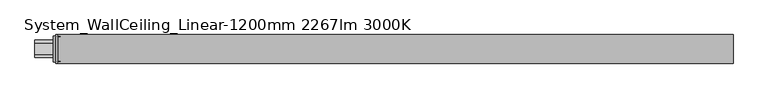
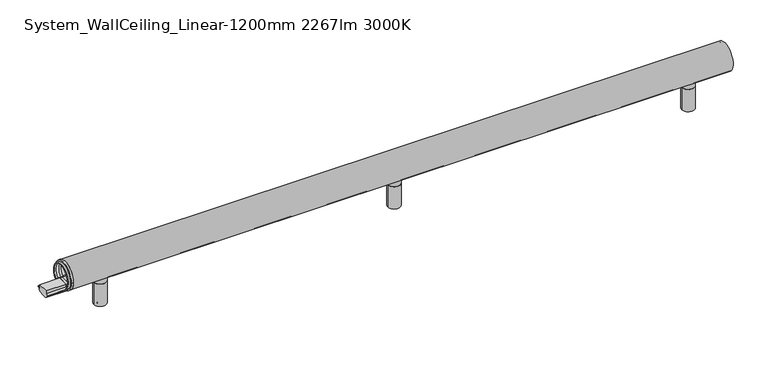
"""IFC4 building model written with IfcOpenShell, lengths in millimetres: light fixture geometry, ARTEMIDE-AoL-System-Linear_WallCeiling_US : System_WallCeiling_Linear-1200mm 2267lm 3000K."""

from ifc_helpers import new_model, si_unit, point, frame, frame_2d, origin, place, context, project, spatial, polyline, circle_curve, trimmed, segment, composite_curve, outline, extrude, source, transform, mapped, element, save
from ifc_brep_helpers import plane_surface, cylinder_surface, revolved_surface, advanced_brep


def system_wallceiling_linear_1200mm_2267lm_3000k_90f3e463(model_context):
    return source(origin(), model_context, "Body", "SolidModel", [
        advanced_brep(
        [(-2.0, 25.0245983, 74.9754017), (-2.0, -25.0245983, 74.9754017), (-2.0, -9.5062575, 60.6916114), (-2.0, -9.5062575, 64.3781516), (-2.0, 9.5062575, 64.3781516), (-2.0, 9.5062575, 60.6916114), (-2.0, 15.4273739, 60.6916114), (-2.0, 17.2867732, 60.6916114), (-2.0, -17.2867732, 60.6916114), (-2.0, -15.4273739, 60.6916114), (2.0, 25.0245983, 74.9754017), (2.0, -25.0245983, 74.9754017), (2.0, -9.5062575, 60.6916114), (2.0, -15.4273739, 60.6916114), (2.0, -17.2867732, 60.6916114), (2.0, 17.2867732, 60.6916114), (2.0, 15.4273739, 60.6916114), (2.0, 9.5062575, 60.6916114), (2.0, 9.5062575, 64.3781516), (2.0, -9.5062575, 64.3781516), (-6.0, -15.4273739, 60.6916114), (-6.0, -17.2867732, 60.6916114), (-6.0, 17.2867732, 60.6916114), (-6.0, 15.4273739, 60.6916114), (6.0, -15.4273739, 60.6916114), (6.0, 15.4273739, 60.6916114), (6.0, 17.2867732, 60.6916114), (6.0, -17.2867732, 60.6916114)],
        [
            (0, 1, circle_curve(frame((-2.0, 0.0, 74.9754017), z_axis=(-1.0, 0.0, 0.0), x_axis=(0.0, -1.0, 0.0)), 25.0245983)),
            (1, 0, circle_curve(frame((-2.0, 0.0, 74.9754017), z_axis=(-1.0, 0.0, 0.0), x_axis=(0.0, -1.0, 0.0)), 25.0245983)),
            (2, 3),
            (3, 4),
            (4, 5),
            (5, 6),
            (6, 7),
            (7, 8, circle_curve(frame((-2.0, 0.0, 74.9754017), z_axis=(1.0, 0.0, 0.0), x_axis=(0.0, -1.0, 0.0)), 22.4245221)),
            (8, 9),
            (9, 2),
            (10, 11, circle_curve(frame((2.0, 0.0, 74.9754017), z_axis=(1.0, 0.0, 0.0), x_axis=(0.0, -1.0, 0.0)), 25.0245983)),
            (11, 10, circle_curve(frame((2.0, 0.0, 74.9754017), z_axis=(1.0, 0.0, 0.0), x_axis=(0.0, -1.0, 0.0)), 25.0245983)),
            (12, 13),
            (13, 14),
            (14, 15, circle_curve(frame((2.0, 0.0, 74.9754017), z_axis=(-1.0, 0.0, 0.0), x_axis=(0.0, -1.0, 0.0)), 22.4245221)),
            (15, 16),
            (16, 17),
            (17, 18),
            (18, 19),
            (19, 12),
            (5, 17),
            (16, 6),
            (9, 13),
            (12, 2),
            (19, 3),
            (0, 10),
            (11, 1),
            (16, 13, circle_curve(frame((2.0, 0.0, 74.9754017), z_axis=(1.0, 0.0, 0.0), x_axis=(0.0, -1.0, 0.0)), 21.0245221)),
            (9, 6, circle_curve(frame((-2.0, 0.0, 74.9754017), z_axis=(-1.0, 0.0, 0.0), x_axis=(0.0, -1.0, 0.0)), 21.0245221)),
            (20, 21),
            (21, 22, circle_curve(frame((-6.0, 0.0, 74.9754017), z_axis=(-1.0, 0.0, 0.0), x_axis=(0.0, -1.0, 0.0)), 22.4245221)),
            (22, 23),
            (23, 20, circle_curve(frame((-6.0, 0.0, 74.9754017), z_axis=(1.0, 0.0, 0.0), x_axis=(0.0, -1.0, 0.0)), 21.0245221)),
            (24, 25, circle_curve(frame((6.0, 0.0, 74.9754017), z_axis=(-1.0, 0.0, 0.0), x_axis=(0.0, -1.0, 0.0)), 21.0245221)),
            (25, 26),
            (26, 27, circle_curve(frame((6.0, 0.0, 74.9754017), z_axis=(1.0, 0.0, 0.0), x_axis=(0.0, -1.0, 0.0)), 22.4245221)),
            (27, 24),
            (23, 6),
            (9, 20),
            (24, 13),
            (16, 25),
            (8, 21),
            (27, 14),
            (7, 22),
            (26, 15),
            (18, 4),
        ],
        [
            plane_surface(frame((-2.0, 0.0, 74.9754017), z_axis=(-1.0, 0.0, 0.0), x_axis=(0.0, 0.0, -1.0))),
            plane_surface(frame((2.0, 0.0, 74.9754017), z_axis=(1.0, 0.0, 0.0), x_axis=(0.0, 0.0, -1.0))),
            plane_surface(frame((-2.0, 9.5062575, 60.6916114), z_axis=(0.0, 0.0, 1.0), x_axis=(1.0, 0.0, 0.0))),
            plane_surface(frame((-2.0, -15.4273739, 60.6916114), z_axis=(0.0, 0.0, 1.0), x_axis=(1.0, 0.0, 0.0))),
            plane_surface(frame((-2.0, -9.5062575, 60.6916114), z_axis=(0.0, -1.0, 0.0), x_axis=(1.0, 0.0, 0.0))),
            cylinder_surface(frame((-2.0, 0.0, 74.9754017), z_axis=(-1.0, 0.0, 0.0), x_axis=(0.0, -1.0, 0.0)), 25.0245983),
            revolved_surface(polyline([(2.0, -21.0245221, 74.9754017), (-2.0, -21.0245221, 74.9754017)]), (-2.0, 0.0, 74.9754017), (1.0, 0.0, 0.0)),
            plane_surface(frame((-6.0, 0.0, 74.9754017), z_axis=(-1.0, 0.0, 0.0), x_axis=(0.0, 0.0, -1.0))),
            plane_surface(frame((6.0, 0.0, 74.9754017), z_axis=(1.0, 0.0, 0.0), x_axis=(0.0, 0.0, -1.0))),
            revolved_surface(polyline([(-2.0, -21.0245221, 74.9754017), (-6.0, -21.0245221, 74.9754017)]), (-6.0, 0.0, 74.9754017), (1.0, 0.0, 0.0)),
            revolved_surface(polyline([(6.0, -21.0245221, 74.9754017), (2.0, -21.0245221, 74.9754017)]), (-6.0, 0.0, 74.9754017), (1.0, 0.0, 0.0)),
            plane_surface(frame((-6.0, -15.4273739, 60.6916114), z_axis=(0.0, 0.0, -1.0), x_axis=(1.0, 0.0, 0.0))),
            cylinder_surface(frame((-6.0, 0.0, 74.9754017), z_axis=(-1.0, 0.0, 0.0), x_axis=(0.0, -1.0, 0.0)), 22.4245221),
            plane_surface(frame((-6.0, 17.2867732, 60.6916114), z_axis=(0.0, 0.0, -1.0), x_axis=(1.0, 0.0, 0.0))),
            plane_surface(frame((-2.0, -9.5062575, 64.3781516), z_axis=(0.0, 0.0, 1.0), x_axis=(1.0, 0.0, 0.0))),
            plane_surface(frame((-2.0, 9.5062575, 64.3781516), z_axis=(0.0, 1.0, 0.0), x_axis=(1.0, 0.0, 0.0))),
        ],
        [
            (0, [[1, 2], [3, 4, 5, 6, 7, 8, 9, 10]]),
            (1, [[11, 12], [13, 14, 15, 16, 17, 18, 19, 20]]),
            (2, [[-6, 21, -17, 22]]),
            (3, [[-10, 23, -13, 24]]),
            (4, [[-3, -24, -20, 25]]),
            (5, [[-1, 26, -12, 27]]),
            (6, [[-22, 28, -23, 29]]),
            (7, [[30, 31, 32, 33]]),
            (8, [[34, 35, 36, 37]]),
            (9, [[-33, 38, -29, 39]]),
            (10, [[-34, 40, -28, 41]]),
            (11, [[-30, -39, -9, 42]]),
            (11, [[-37, 43, -14, -40]]),
            (12, [[-31, -42, -8, 44]]),
            (12, [[-36, 45, -15, -43]]),
            (13, [[-32, -44, -7, -38]]),
            (13, [[-35, -41, -16, -45]]),
            (5, [[-2, -27, -11, -26]]),
            (14, [[-4, -25, -19, 46]]),
            (15, [[-5, -46, -18, -21]]),
        ],
    ),
        extrude(outline(composite_curve([segment(polyline([(-11.75, 57.2067494), (-15.304087, 57.2067494), (-15.304087, 58.7367744), (-9.5062575, 58.7367744), (-9.5062575, 64.3781516), (9.5062575, 64.3781516), (9.5062575, 58.7367744), (15.304087, 58.7367744), (15.304087, 57.2067494), (11.75, 57.2067494), (11.75, 52.880877)]), True, "CONTINUOUS"), segment(trimmed(circle_curve(frame_2d((0.0, 74.9754017)), 25.0245983), [point((11.75, 52.880877))], [point((-11.75, 52.880877))], False, "CARTESIAN"), True, "CONTINUOUS"), segment(polyline([(-11.75, 52.880877), (-11.75, 57.2067494)]), True, "CONTINUOUS")], self_intersect=False)), frame((2.0, 0.0, 0.0), z_axis=(1.0, 0.0, 0.0), x_axis=(0.0, 1.0, 0.0)), (0.0, 0.0, 1.0), 36.0),
        extrude(outline(composite_curve([segment(polyline([(-11.75, 57.2067494), (-15.304087, 57.2067494), (-15.304087, 58.7367744), (-9.5062575, 58.7367744), (-9.5062575, 64.3781516), (9.5062575, 64.3781516), (9.5062575, 58.7367744), (15.304087, 58.7367744), (15.304087, 57.2067494), (11.75, 57.2067494), (11.75, 52.880877)]), True, "CONTINUOUS"), segment(trimmed(circle_curve(frame_2d((0.0, 74.9754017)), 25.0245983), [point((11.75, 52.880877))], [point((-11.75, 52.880877))], False, "CARTESIAN"), True, "CONTINUOUS"), segment(polyline([(-11.75, 52.880877), (-11.75, 57.2067494)]), True, "CONTINUOUS")], self_intersect=False)), frame((-38.0, 0.0, 0.0), z_axis=(1.0, 0.0, 0.0), x_axis=(0.0, 1.0, 0.0)), (0.0, 0.0, 1.0), 36.0),
        advanced_brep(
        [(585.3054564, 0.0, 1.0), (594.6945436, 0.0, 1.0), (594.6945436, 0.0, 0.0), (585.3054564, 0.0, 0.0), (578.8054564, 0.0, 1.0), (601.1945436, 0.0, 1.0), (578.8054564, 0.0, 42.5), (601.1945436, 0.0, 42.5), (581.2810808, 0.0, 42.5), (598.7189192, 0.0, 42.5), (581.2810808, 0.0, 43.4995055), (598.7189192, 0.0, 43.4995055), (578.8054564, 0.0, 43.4995055), (601.1945436, 0.0, 43.4995055), (578.8054564, 0.0, 52.9333396), (601.1945436, 0.0, 52.9333396), (590.0, 0.0, 52.9333396), (590.0, 0.0, 0.0)],
        [
            (0, 1, circle_curve(frame((590.0, 0.0, 1.0), z_axis=(0.0, 0.0, -1.0), x_axis=(1.0, 0.0, 0.0)), 4.6945436)),
            (1, 2),
            (2, 3, circle_curve(frame((590.0, 0.0, 0.0), z_axis=(0.0, 0.0, 1.0), x_axis=(1.0, 0.0, 0.0)), 4.6945436)),
            (3, 0),
            (1, 0, circle_curve(frame((590.0, 0.0, 1.0), z_axis=(0.0, 0.0, -1.0), x_axis=(1.0, 0.0, 0.0)), 4.6945436)),
            (3, 2, circle_curve(frame((590.0, 0.0, 0.0), z_axis=(0.0, 0.0, 1.0), x_axis=(1.0, 0.0, 0.0)), 4.6945436)),
            (4, 5, circle_curve(frame((590.0, 0.0, 1.0), z_axis=(0.0, 0.0, -1.0), x_axis=(1.0, 0.0, 0.0)), 11.1945436)),
            (5, 1),
            (0, 4),
            (5, 4, circle_curve(frame((590.0, 0.0, 1.0), z_axis=(0.0, 0.0, -1.0), x_axis=(1.0, 0.0, 0.0)), 11.1945436)),
            (6, 7, circle_curve(frame((590.0, 0.0, 42.5), z_axis=(0.0, 0.0, -1.0), x_axis=(1.0, 0.0, 0.0)), 11.1945436)),
            (7, 5),
            (4, 6),
            (7, 6, circle_curve(frame((590.0, 0.0, 42.5), z_axis=(0.0, 0.0, -1.0), x_axis=(1.0, 0.0, 0.0)), 11.1945436)),
            (8, 9, circle_curve(frame((590.0, 0.0, 42.5), z_axis=(0.0, 0.0, -1.0), x_axis=(1.0, 0.0, 0.0)), 8.7189192)),
            (9, 7),
            (6, 8),
            (9, 8, circle_curve(frame((590.0, 0.0, 42.5), z_axis=(0.0, 0.0, -1.0), x_axis=(1.0, 0.0, 0.0)), 8.7189192)),
            (10, 11, circle_curve(frame((590.0, 0.0, 43.4995055), z_axis=(0.0, 0.0, -1.0), x_axis=(1.0, 0.0, 0.0)), 8.7189192)),
            (11, 9),
            (8, 10),
            (11, 10, circle_curve(frame((590.0, 0.0, 43.4995055), z_axis=(0.0, 0.0, -1.0), x_axis=(1.0, 0.0, 0.0)), 8.7189192)),
            (12, 13, circle_curve(frame((590.0, 0.0, 43.4995055), z_axis=(0.0, 0.0, -1.0), x_axis=(1.0, 0.0, 0.0)), 11.1945436)),
            (13, 11),
            (10, 12),
            (13, 12, circle_curve(frame((590.0, 0.0, 43.4995055), z_axis=(0.0, 0.0, -1.0), x_axis=(1.0, 0.0, 0.0)), 11.1945436)),
            (14, 15, circle_curve(frame((590.0, 0.0, 52.9333396), z_axis=(0.0, 0.0, -1.0), x_axis=(1.0, 0.0, 0.0)), 11.1945436)),
            (15, 13),
            (12, 14),
            (15, 14, circle_curve(frame((590.0, 0.0, 52.9333396), z_axis=(0.0, 0.0, -1.0), x_axis=(1.0, 0.0, 0.0)), 11.1945436)),
            (16, 15),
            (14, 16),
            (2, 17),
            (17, 3),
        ],
        [
            cylinder_surface(frame((590.0, 0.0, -58.83358), z_axis=(0.0, 0.0, 1.0), x_axis=(1.0, 0.0, 0.0)), 4.6945436),
            plane_surface(frame((590.0, 0.0, 1.0), z_axis=(0.0, 0.0, -1.0), x_axis=(1.0, 0.0, 0.0))),
            cylinder_surface(frame((590.0, 0.0, -58.83358), z_axis=(0.0, 0.0, 1.0), x_axis=(1.0, 0.0, 0.0)), 11.1945436),
            plane_surface(frame((590.0, 0.0, 42.5), z_axis=(0.0, 0.0, 1.0), x_axis=(1.0, 0.0, 0.0))),
            cylinder_surface(frame((590.0, 0.0, -58.83358), z_axis=(0.0, 0.0, 1.0), x_axis=(1.0, 0.0, 0.0)), 8.7189192),
            plane_surface(frame((590.0, 0.0, 43.4995055), z_axis=(0.0, 0.0, -1.0), x_axis=(1.0, 0.0, 0.0))),
            plane_surface(frame((590.0, 0.0, 52.9333396), z_axis=(0.0, 0.0, 1.0), x_axis=(1.0, 0.0, 0.0))),
            plane_surface(frame((590.0, 0.0, 0.0), z_axis=(0.0, 0.0, -1.0), x_axis=(1.0, 0.0, 0.0))),
        ],
        [
            (0, [[1, 2, 3, 4]]),
            (0, [[5, -4, 6, -2]]),
            (1, [[7, 8, -1, 9]]),
            (1, [[10, -9, -5, -8]]),
            (2, [[11, 12, -7, 13]]),
            (2, [[14, -13, -10, -12]]),
            (3, [[15, 16, -11, 17]]),
            (3, [[18, -17, -14, -16]]),
            (4, [[19, 20, -15, 21]]),
            (4, [[22, -21, -18, -20]]),
            (5, [[23, 24, -19, 25]]),
            (5, [[26, -25, -22, -24]]),
            (2, [[27, 28, -23, 29]]),
            (2, [[30, -29, -26, -28]]),
            (6, [[31, -27, 32]]),
            (6, [[-32, -30, -31]]),
            (7, [[-3, 33, 34]]),
            (7, [[-6, -34, -33]]),
        ],
    ),
        advanced_brep(
        [(59.3054564, 0.0, 1.0), (68.6945436, 0.0, 1.0), (68.6945436, 0.0, 0.0), (59.3054564, 0.0, 0.0), (52.8054564, 0.0, 1.0), (75.1945436, 0.0, 1.0), (52.8054564, 0.0, 42.5), (75.1945436, 0.0, 42.5), (55.2810808, 0.0, 42.5), (72.7189192, 0.0, 42.5), (55.2810808, 0.0, 43.4995055), (72.7189192, 0.0, 43.4995055), (52.8054564, 0.0, 43.4995055), (75.1945436, 0.0, 43.4995055), (52.8054564, 0.0, 52.9333396), (75.1945436, 0.0, 52.9333396), (64.0, 0.0, 52.9333396), (64.0, 0.0, 0.0)],
        [
            (0, 1, circle_curve(frame((64.0, 0.0, 1.0), z_axis=(0.0, 0.0, -1.0), x_axis=(1.0, 0.0, 0.0)), 4.6945436)),
            (1, 2),
            (2, 3, circle_curve(frame((64.0, 0.0, 0.0), z_axis=(0.0, 0.0, 1.0), x_axis=(1.0, 0.0, 0.0)), 4.6945436)),
            (3, 0),
            (1, 0, circle_curve(frame((64.0, 0.0, 1.0), z_axis=(0.0, 0.0, -1.0), x_axis=(1.0, 0.0, 0.0)), 4.6945436)),
            (3, 2, circle_curve(frame((64.0, 0.0, 0.0), z_axis=(0.0, 0.0, 1.0), x_axis=(1.0, 0.0, 0.0)), 4.6945436)),
            (4, 5, circle_curve(frame((64.0, 0.0, 1.0), z_axis=(0.0, 0.0, -1.0), x_axis=(1.0, 0.0, 0.0)), 11.1945436)),
            (5, 1),
            (0, 4),
            (5, 4, circle_curve(frame((64.0, 0.0, 1.0), z_axis=(0.0, 0.0, -1.0), x_axis=(1.0, 0.0, 0.0)), 11.1945436)),
            (6, 7, circle_curve(frame((64.0, 0.0, 42.5), z_axis=(0.0, 0.0, -1.0), x_axis=(1.0, 0.0, 0.0)), 11.1945436)),
            (7, 5),
            (4, 6),
            (7, 6, circle_curve(frame((64.0, 0.0, 42.5), z_axis=(0.0, 0.0, -1.0), x_axis=(1.0, 0.0, 0.0)), 11.1945436)),
            (8, 9, circle_curve(frame((64.0, 0.0, 42.5), z_axis=(0.0, 0.0, -1.0), x_axis=(1.0, 0.0, 0.0)), 8.7189192)),
            (9, 7),
            (6, 8),
            (9, 8, circle_curve(frame((64.0, 0.0, 42.5), z_axis=(0.0, 0.0, -1.0), x_axis=(1.0, 0.0, 0.0)), 8.7189192)),
            (10, 11, circle_curve(frame((64.0, 0.0, 43.4995055), z_axis=(0.0, 0.0, -1.0), x_axis=(1.0, 0.0, 0.0)), 8.7189192)),
            (11, 9),
            (8, 10),
            (11, 10, circle_curve(frame((64.0, 0.0, 43.4995055), z_axis=(0.0, 0.0, -1.0), x_axis=(1.0, 0.0, 0.0)), 8.7189192)),
            (12, 13, circle_curve(frame((64.0, 0.0, 43.4995055), z_axis=(0.0, 0.0, -1.0), x_axis=(1.0, 0.0, 0.0)), 11.1945436)),
            (13, 11),
            (10, 12),
            (13, 12, circle_curve(frame((64.0, 0.0, 43.4995055), z_axis=(0.0, 0.0, -1.0), x_axis=(1.0, 0.0, 0.0)), 11.1945436)),
            (14, 15, circle_curve(frame((64.0, 0.0, 52.9333396), z_axis=(0.0, 0.0, -1.0), x_axis=(1.0, 0.0, 0.0)), 11.1945436)),
            (15, 13),
            (12, 14),
            (15, 14, circle_curve(frame((64.0, 0.0, 52.9333396), z_axis=(0.0, 0.0, -1.0), x_axis=(1.0, 0.0, 0.0)), 11.1945436)),
            (16, 15),
            (14, 16),
            (2, 17),
            (17, 3),
        ],
        [
            cylinder_surface(frame((64.0, 0.0, -58.83358), z_axis=(0.0, 0.0, 1.0), x_axis=(1.0, 0.0, 0.0)), 4.6945436),
            plane_surface(frame((64.0, 0.0, 1.0), z_axis=(0.0, 0.0, -1.0), x_axis=(1.0, 0.0, 0.0))),
            cylinder_surface(frame((64.0, 0.0, -58.83358), z_axis=(0.0, 0.0, 1.0), x_axis=(1.0, 0.0, 0.0)), 11.1945436),
            plane_surface(frame((64.0, 0.0, 42.5), z_axis=(0.0, 0.0, 1.0), x_axis=(1.0, 0.0, 0.0))),
            cylinder_surface(frame((64.0, 0.0, -58.83358), z_axis=(0.0, 0.0, 1.0), x_axis=(1.0, 0.0, 0.0)), 8.7189192),
            plane_surface(frame((64.0, 0.0, 43.4995055), z_axis=(0.0, 0.0, -1.0), x_axis=(1.0, 0.0, 0.0))),
            plane_surface(frame((64.0, 0.0, 52.9333396), z_axis=(0.0, 0.0, 1.0), x_axis=(1.0, 0.0, 0.0))),
            plane_surface(frame((64.0, 0.0, 0.0), z_axis=(0.0, 0.0, -1.0), x_axis=(1.0, 0.0, 0.0))),
        ],
        [
            (0, [[1, 2, 3, 4]]),
            (0, [[5, -4, 6, -2]]),
            (1, [[7, 8, -1, 9]]),
            (1, [[10, -9, -5, -8]]),
            (2, [[11, 12, -7, 13]]),
            (2, [[14, -13, -10, -12]]),
            (3, [[15, 16, -11, 17]]),
            (3, [[18, -17, -14, -16]]),
            (4, [[19, 20, -15, 21]]),
            (4, [[22, -21, -18, -20]]),
            (5, [[23, 24, -19, 25]]),
            (5, [[26, -25, -22, -24]]),
            (2, [[27, 28, -23, 29]]),
            (2, [[30, -29, -26, -28]]),
            (6, [[31, -27, 32]]),
            (6, [[-32, -30, -31]]),
            (7, [[-3, 33, 34]]),
            (7, [[-6, -34, -33]]),
        ],
    ),
        advanced_brep(
        [(1111.3054564, 0.0, 1.0), (1120.6945436, 0.0, 1.0), (1120.6945436, 0.0, 0.0), (1111.3054564, 0.0, 0.0), (1104.8054564, 0.0, 1.0), (1127.1945436, 0.0, 1.0), (1104.8054564, 0.0, 42.5), (1127.1945436, 0.0, 42.5), (1107.2810808, 0.0, 42.5), (1124.7189192, 0.0, 42.5), (1107.2810808, 0.0, 43.4995055), (1124.7189192, 0.0, 43.4995055), (1104.8054564, 0.0, 43.4995055), (1127.1945436, 0.0, 43.4995055), (1104.8054564, 0.0, 52.9333396), (1127.1945436, 0.0, 52.9333396), (1116.0, 0.0, 52.9333396), (1116.0, 0.0, 0.0)],
        [
            (0, 1, circle_curve(frame((1116.0, 0.0, 1.0), z_axis=(0.0, 0.0, -1.0), x_axis=(1.0, 0.0, 0.0)), 4.6945436)),
            (1, 2),
            (2, 3, circle_curve(frame((1116.0, 0.0, 0.0), z_axis=(0.0, 0.0, 1.0), x_axis=(1.0, 0.0, 0.0)), 4.6945436)),
            (3, 0),
            (1, 0, circle_curve(frame((1116.0, 0.0, 1.0), z_axis=(0.0, 0.0, -1.0), x_axis=(1.0, 0.0, 0.0)), 4.6945436)),
            (3, 2, circle_curve(frame((1116.0, 0.0, 0.0), z_axis=(0.0, 0.0, 1.0), x_axis=(1.0, 0.0, 0.0)), 4.6945436)),
            (4, 5, circle_curve(frame((1116.0, 0.0, 1.0), z_axis=(0.0, 0.0, -1.0), x_axis=(1.0, 0.0, 0.0)), 11.1945436)),
            (5, 1),
            (0, 4),
            (5, 4, circle_curve(frame((1116.0, 0.0, 1.0), z_axis=(0.0, 0.0, -1.0), x_axis=(1.0, 0.0, 0.0)), 11.1945436)),
            (6, 7, circle_curve(frame((1116.0, 0.0, 42.5), z_axis=(0.0, 0.0, -1.0), x_axis=(1.0, 0.0, 0.0)), 11.1945436)),
            (7, 5),
            (4, 6),
            (7, 6, circle_curve(frame((1116.0, 0.0, 42.5), z_axis=(0.0, 0.0, -1.0), x_axis=(1.0, 0.0, 0.0)), 11.1945436)),
            (8, 9, circle_curve(frame((1116.0, 0.0, 42.5), z_axis=(0.0, 0.0, -1.0), x_axis=(1.0, 0.0, 0.0)), 8.7189192)),
            (9, 7),
            (6, 8),
            (9, 8, circle_curve(frame((1116.0, 0.0, 42.5), z_axis=(0.0, 0.0, -1.0), x_axis=(1.0, 0.0, 0.0)), 8.7189192)),
            (10, 11, circle_curve(frame((1116.0, 0.0, 43.4995055), z_axis=(0.0, 0.0, -1.0), x_axis=(1.0, 0.0, 0.0)), 8.7189192)),
            (11, 9),
            (8, 10),
            (11, 10, circle_curve(frame((1116.0, 0.0, 43.4995055), z_axis=(0.0, 0.0, -1.0), x_axis=(1.0, 0.0, 0.0)), 8.7189192)),
            (12, 13, circle_curve(frame((1116.0, 0.0, 43.4995055), z_axis=(0.0, 0.0, -1.0), x_axis=(1.0, 0.0, 0.0)), 11.1945436)),
            (13, 11),
            (10, 12),
            (13, 12, circle_curve(frame((1116.0, 0.0, 43.4995055), z_axis=(0.0, 0.0, -1.0), x_axis=(1.0, 0.0, 0.0)), 11.1945436)),
            (14, 15, circle_curve(frame((1116.0, 0.0, 52.9333396), z_axis=(0.0, 0.0, -1.0), x_axis=(1.0, 0.0, 0.0)), 11.1945436)),
            (15, 13),
            (12, 14),
            (15, 14, circle_curve(frame((1116.0, 0.0, 52.9333396), z_axis=(0.0, 0.0, -1.0), x_axis=(1.0, 0.0, 0.0)), 11.1945436)),
            (16, 15),
            (14, 16),
            (2, 17),
            (17, 3),
        ],
        [
            cylinder_surface(frame((1116.0, 0.0, -58.83358), z_axis=(0.0, 0.0, 1.0), x_axis=(1.0, 0.0, 0.0)), 4.6945436),
            plane_surface(frame((1116.0, 0.0, 1.0), z_axis=(0.0, 0.0, -1.0), x_axis=(1.0, 0.0, 0.0))),
            cylinder_surface(frame((1116.0, 0.0, -58.83358), z_axis=(0.0, 0.0, 1.0), x_axis=(1.0, 0.0, 0.0)), 11.1945436),
            plane_surface(frame((1116.0, 0.0, 42.5), z_axis=(0.0, 0.0, 1.0), x_axis=(1.0, 0.0, 0.0))),
            cylinder_surface(frame((1116.0, 0.0, -58.83358), z_axis=(0.0, 0.0, 1.0), x_axis=(1.0, 0.0, 0.0)), 8.7189192),
            plane_surface(frame((1116.0, 0.0, 43.4995055), z_axis=(0.0, 0.0, -1.0), x_axis=(1.0, 0.0, 0.0))),
            plane_surface(frame((1116.0, 0.0, 52.9333396), z_axis=(0.0, 0.0, 1.0), x_axis=(1.0, 0.0, 0.0))),
            plane_surface(frame((1116.0, 0.0, 0.0), z_axis=(0.0, 0.0, -1.0), x_axis=(1.0, 0.0, 0.0))),
        ],
        [
            (0, [[1, 2, 3, 4]]),
            (0, [[5, -4, 6, -2]]),
            (1, [[7, 8, -1, 9]]),
            (1, [[10, -9, -5, -8]]),
            (2, [[11, 12, -7, 13]]),
            (2, [[14, -13, -10, -12]]),
            (3, [[15, 16, -11, 17]]),
            (3, [[18, -17, -14, -16]]),
            (4, [[19, 20, -15, 21]]),
            (4, [[22, -21, -18, -20]]),
            (5, [[23, 24, -19, 25]]),
            (5, [[26, -25, -22, -24]]),
            (2, [[27, 28, -23, 29]]),
            (2, [[30, -29, -26, -28]]),
            (6, [[31, -27, 32]]),
            (6, [[-32, -30, -31]]),
            (7, [[-3, 33, 34]]),
            (7, [[-6, -34, -33]]),
        ],
    ),
        extrude(outline(composite_curve([segment(trimmed(circle_curve(frame_2d((0.0, 75.0)), 25.0), [point((-11.75, 52.9333396))], [point((11.75, 52.9333396))], False, "CARTESIAN"), True, "CONTINUOUS"), segment(polyline([(11.75, 52.9333396), (11.75, 57.259212), (13.667754, 57.259212), (13.667754, 55.8288843), (15.617754, 57.2440748), (15.617754, 59.244074), (12.667754, 59.244074), (12.667754, 60.744074), (17.2779794, 60.744074)]), True, "CONTINUOUS"), segment(trimmed(circle_curve(frame_2d((0.0, 75.0)), 22.4), [point((17.2779794, 60.744074))], [point((-17.2779794, 60.744074))], True, "CARTESIAN"), True, "CONTINUOUS"), segment(polyline([(-17.2779794, 60.744074), (-12.667754, 60.744074), (-12.667754, 59.244074), (-15.617754, 59.244074), (-15.617754, 57.2440748), (-13.667754, 55.8288843), (-13.667754, 57.259212), (-11.75, 57.259212), (-11.75, 52.9333396)]), True, "CONTINUOUS")], self_intersect=False)), frame((2.0, 0.0, 0.0), z_axis=(1.0, 0.0, 0.0), x_axis=(0.0, 1.0, 0.0)), (0.0, 0.0, 1.0), 1180.0),
        extrude(outline(composite_curve([segment(trimmed(circle_curve(frame_2d((0.0, 75.0)), 25.0), [point((11.75, 52.9333396))], [point((-11.75, 52.9333396))], False, "CARTESIAN"), True, "CONTINUOUS"), segment(polyline([(-11.75, 52.9333396), (-11.75, 57.259212), (-15.304087, 57.259212), (-15.304087, 58.785971), (-9.5062575, 58.785971), (-9.5062575, 64.4273482), (9.5062575, 64.4273482), (9.5062575, 58.785971), (15.304087, 58.785971), (15.304087, 57.259212), (11.75, 57.259212), (11.75, 52.9333396)]), True, "CONTINUOUS")], self_intersect=False)), frame((38.0, 0.0, 0.0), z_axis=(1.0, 0.0, 0.0), x_axis=(0.0, 1.0, 0.0)), (0.0, 0.0, 1.0), 1144.0),
    ])


if __name__ == "__main__":
    model = new_model("IFC4")
    model_context = context("Model", 3, world=origin())
    ifc_project = project(units=[si_unit("LENGTHUNIT", "METRE", prefix="MILLI")], contexts=[model_context])
    site = spatial("IfcSite", under=ifc_project)
    building = spatial("IfcBuilding", under=site)
    placement = place(None, origin())
    system_wallceiling_linear_1200mm_2267lm_3000k_shape = system_wallceiling_linear_1200mm_2267lm_3000k_90f3e463(model_context)
    element("IfcLightFixture", 1, ObjectType="ARTEMIDE-AoL-System-Linear_WallCeiling_US : System_WallCeiling_Linear-1200mm 2267lm 3000K", at=placement, inside=building, context=model_context, shape_type="MappedRepresentation", body=[
        mapped(system_wallceiling_linear_1200mm_2267lm_3000k_shape, transform((0.0, 0.0, 0.0), x_axis=(1.0, 0.0, 0.0), y_axis=(0.0, 1.0, 0.0), z_axis=(0.0, 0.0, 1.0))),
    ])
    save(model, "model.ifc")
